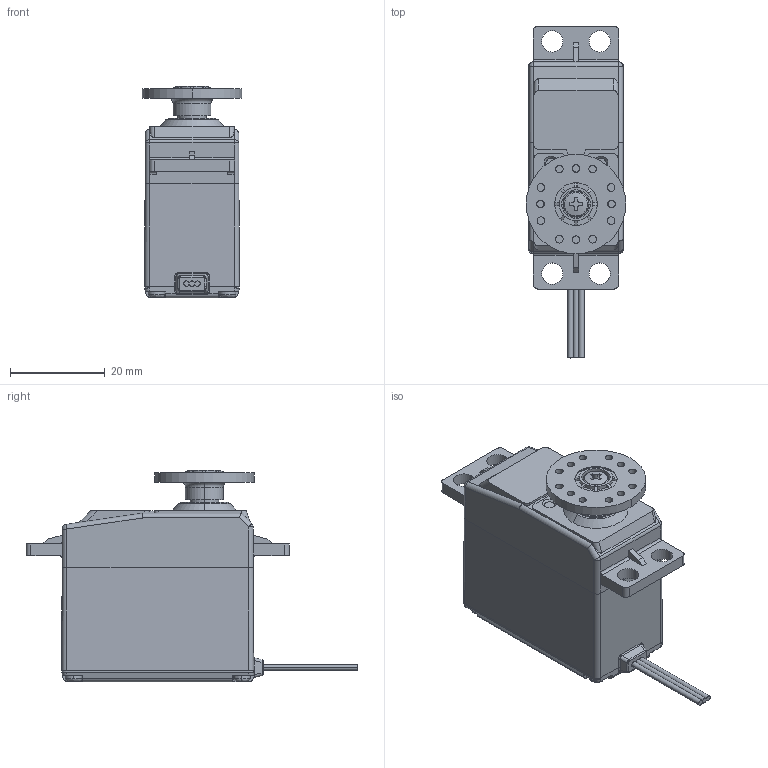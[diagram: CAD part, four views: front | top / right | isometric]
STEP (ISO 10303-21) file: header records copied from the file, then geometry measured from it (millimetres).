
FILE_DESCRIPTION (( 'STEP AP203' ), '1' );
FILE_NAME ('AD20-05H-A01(3D).STEP', '2022-12-06T07:10:44', ( '' ), ( '' ), 'SwSTEP 2.0', 'SolidWorks 2022', '' );
FILE_SCHEMA (( 'CONFIG_CONTROL_DESIGN' ));
Length unit declared in the file: millimetre
Products named in the file (4): AD20-05H-A01; HORN; TAPPING SCREW M2.6x8; AD20-05H-A01(3D)
Assembly tree (3 placements, depth 2):
  AD20-05H-A01(3D)
    AD20-05H-A01
    HORN
    TAPPING SCREW M2.6x8
Bounding box: 21 x 70 x 44.67 mm (x, y, z)
Volume: 30031 mm3; surface area: 8128.3 mm2
Topology: 3 solids, 3 shells, 380 faces, 962 edges, 602 vertices
Faces by surface type: cylinder 168, plane 141, bspline 41, cone 19, torus 10, sphere 1
Entity records: 12719 total; most frequent: CARTESIAN_POINT 3248, ORIENTED_EDGE 1918, DIRECTION 1913, EDGE_CURVE 959, AXIS2_PLACEMENT_3D 729, VERTEX_POINT 602, LINE 455, VECTOR 455
